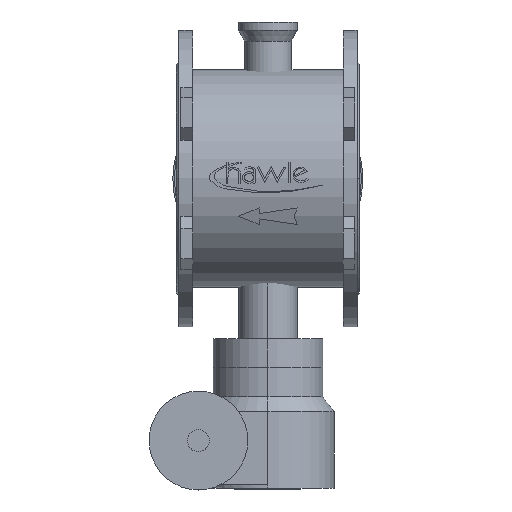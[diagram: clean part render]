
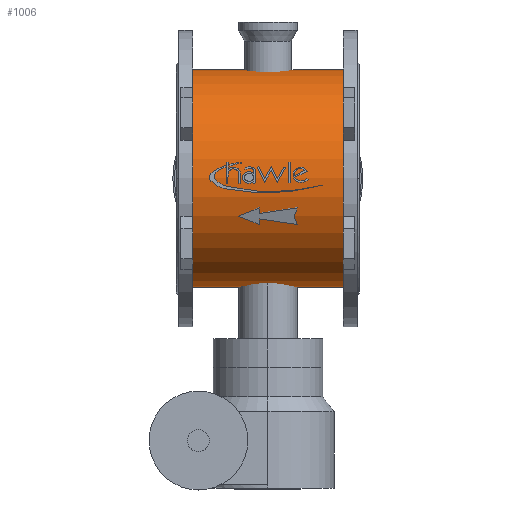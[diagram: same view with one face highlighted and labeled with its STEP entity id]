
A CAD part, top view. The second image highlights one B-rep face of the part: STEP entity #1006.
In plain terms, the highlighted cylindrical face has radius 149 mm (diameter 298 mm), a partial arc.
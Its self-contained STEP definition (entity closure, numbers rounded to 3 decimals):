
#1006=ADVANCED_FACE('',(#2067),#2068,.T.);
#2067=FACE_OUTER_BOUND('',#3568,.T.);
#2068=CYLINDRICAL_SURFACE('',#3569,149.0);
#3568=EDGE_LOOP('',(#5165,#5166,#5167,#5168));
#3569=AXIS2_PLACEMENT_3D('',#5169,#5170,#5171);
#5165=ORIENTED_EDGE('',*,*,#8084,.T.);
#5166=ORIENTED_EDGE('',*,*,#8085,.T.);
#5167=ORIENTED_EDGE('',*,*,#8086,.T.);
#5168=ORIENTED_EDGE('',*,*,#8087,.T.);
#5169=CARTESIAN_POINT('',(-228.0,0.,0.0));
#5170=DIRECTION('',(1.0,0.,0.0));
#5171=DIRECTION('',(0.,-1.0,0.0));
#8084=EDGE_CURVE('',#9571,#9572,#9573,.T.);
#8085=EDGE_CURVE('',#9572,#9574,#9575,.T.);
#8086=EDGE_CURVE('',#9574,#9576,#9577,.T.);
#8087=EDGE_CURVE('',#9576,#9571,#9578,.T.);
#9571=VERTEX_POINT('',#11520);
#9572=VERTEX_POINT('',#11521);
#9573=LINE('',#11522,#11523);
#9574=VERTEX_POINT('',#11524);
#9575=CIRCLE('',#11525,149.0);
#9576=VERTEX_POINT('',#11526);
#9577=LINE('',#11527,#11528);
#9578=CIRCLE('',#11529,149.0);
#11520=CARTESIAN_POINT('',(-228.0,-149.0,0.0));
#11521=CARTESIAN_POINT('',(-22.0,-149.0,0.0));
#11522=CARTESIAN_POINT('',(-228.0,-149.0,0.));
#11523=VECTOR('',#13604,1.0);
#11524=CARTESIAN_POINT('',(-22.0,149.0,0.));
#11525=AXIS2_PLACEMENT_3D('',#13605,#13606,#13607);
#11526=CARTESIAN_POINT('',(-228.0,149.0,0.));
#11527=CARTESIAN_POINT('',(-228.0,149.0,0.));
#11528=VECTOR('',#13608,1.0);
#11529=AXIS2_PLACEMENT_3D('',#13609,#13610,#13611);
#13604=DIRECTION('',(1.0,0.,0.0));
#13605=CARTESIAN_POINT('',(-22.0,0.,0.0));
#13606=DIRECTION('',(-1.0,0.,0.0));
#13607=DIRECTION('',(0.,-1.0,0.0));
#13608=DIRECTION('',(-1.0,0.,-0.0));
#13609=CARTESIAN_POINT('',(-228.0,0.,0.0));
#13610=DIRECTION('',(1.0,0.,0.0));
#13611=DIRECTION('',(0.,-1.0,0.0));
